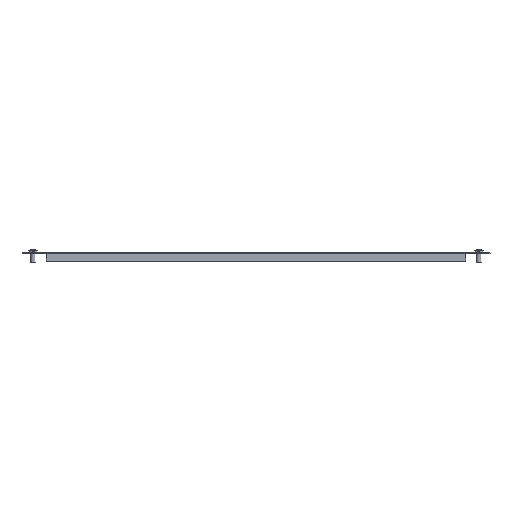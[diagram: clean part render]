
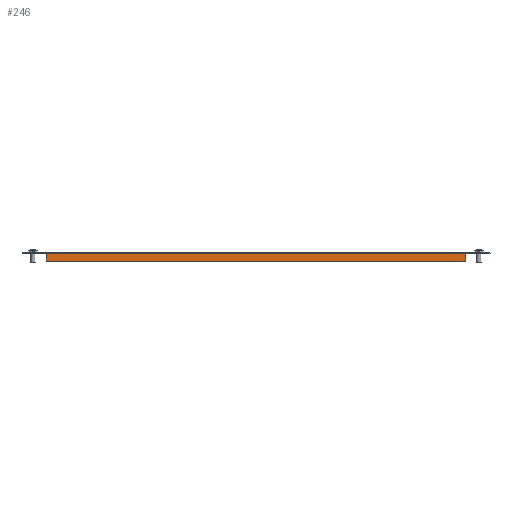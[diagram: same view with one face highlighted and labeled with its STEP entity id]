
A CAD part, front view. The second image highlights one B-rep face of the part: STEP entity #246.
In plain terms, the highlighted planar face has unit normal (0, -1, 0).
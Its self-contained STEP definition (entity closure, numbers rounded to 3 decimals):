
#41 = LINE ( 'NONE', #1255, #450 ) ;
#45 = CARTESIAN_POINT ( 'NONE',  ( -235.5, -635., 0. ) ) ;
#74 = CARTESIAN_POINT ( 'NONE',  ( -235.5, -635., -2.4 ) ) ;
#131 = LINE ( 'NONE', #2145, #982 ) ;
#200 = ORIENTED_EDGE ( 'NONE', *, *, #471, .T. ) ;
#246 = ADVANCED_FACE ( 'NONE', ( #5165 ), #5523, .T. ) ;
#414 = ORIENTED_EDGE ( 'NONE', *, *, #1550, .T. ) ;
#450 = VECTOR ( 'NONE', #2115, 1000. ) ;
#471 = EDGE_CURVE ( 'NONE', #4413, #2555, #41, .T. ) ;
#478 = CARTESIAN_POINT ( 'NONE',  ( 235.5, -635., -10. ) ) ;
#820 = DIRECTION ( 'NONE',  ( 1., 0., 0. ) ) ;
#844 = VERTEX_POINT ( 'NONE', #1645 ) ;
#975 = VECTOR ( 'NONE', #5278, 1000. ) ;
#982 = VECTOR ( 'NONE', #4327, 1000. ) ;
#986 = LINE ( 'NONE', #478, #975 ) ;
#1010 = DIRECTION ( 'NONE',  ( 0., 0., 1. ) ) ;
#1026 = ORIENTED_EDGE ( 'NONE', *, *, #4477, .F. ) ;
#1216 = EDGE_CURVE ( 'NONE', #844, #5057, #986, .T. ) ;
#1255 = CARTESIAN_POINT ( 'NONE',  ( 0., -635., 0. ) ) ;
#1261 = CARTESIAN_POINT ( 'NONE',  ( 235.5, -635., 0. ) ) ;
#1281 = CARTESIAN_POINT ( 'NONE',  ( -235.5, -635., 0. ) ) ;
#1498 = CARTESIAN_POINT ( 'NONE',  ( -235.5, -635., -10. ) ) ;
#1550 = EDGE_CURVE ( 'NONE', #844, #4413, #4830, .T. ) ;
#1645 = CARTESIAN_POINT ( 'NONE',  ( 235.5, -635., -2.4 ) ) ;
#2097 = EDGE_CURVE ( 'NONE', #2248, #2203, #131, .T. ) ;
#2115 = DIRECTION ( 'NONE',  ( -1., 0., 0. ) ) ;
#2145 = CARTESIAN_POINT ( 'NONE',  ( -235.5, -635., -1.8 ) ) ;
#2178 = LINE ( 'NONE', #45, #2526 ) ;
#2203 = VERTEX_POINT ( 'NONE', #74 ) ;
#2248 = VERTEX_POINT ( 'NONE', #1498 ) ;
#2252 = EDGE_LOOP ( 'NONE', ( #2478, #414, #200, #1026, #3176, #4861 ) ) ;
#2318 = VECTOR ( 'NONE', #1010, 1000. ) ;
#2331 = DIRECTION ( 'NONE',  ( 0., 0., 1. ) ) ;
#2337 = VECTOR ( 'NONE', #4381, 1000. ) ;
#2478 = ORIENTED_EDGE ( 'NONE', *, *, #1216, .F. ) ;
#2526 = VECTOR ( 'NONE', #2331, 1000. ) ;
#2555 = VERTEX_POINT ( 'NONE', #1281 ) ;
#3071 = AXIS2_PLACEMENT_3D ( 'NONE', #4263, #5107, #820 ) ;
#3176 = ORIENTED_EDGE ( 'NONE', *, *, #2097, .F. ) ;
#3400 = EDGE_CURVE ( 'NONE', #5057, #2248, #5195, .T. ) ;
#4263 = CARTESIAN_POINT ( 'NONE',  ( 0., -635., 0. ) ) ;
#4293 = CARTESIAN_POINT ( 'NONE',  ( -235.5, -635., -10. ) ) ;
#4327 = DIRECTION ( 'NONE',  ( 0., 0., 1. ) ) ;
#4381 = DIRECTION ( 'NONE',  ( -1., 0., 0. ) ) ;
#4413 = VERTEX_POINT ( 'NONE', #1261 ) ;
#4477 = EDGE_CURVE ( 'NONE', #2203, #2555, #2178, .T. ) ;
#4830 = LINE ( 'NONE', #4917, #2318 ) ;
#4861 = ORIENTED_EDGE ( 'NONE', *, *, #3400, .F. ) ;
#4864 = CARTESIAN_POINT ( 'NONE',  ( 235.5, -635., -10. ) ) ;
#4917 = CARTESIAN_POINT ( 'NONE',  ( 235.5, -635., -2.4 ) ) ;
#5057 = VERTEX_POINT ( 'NONE', #4864 ) ;
#5107 = DIRECTION ( 'NONE',  ( 0., -1., 0. ) ) ;
#5165 = FACE_OUTER_BOUND ( 'NONE', #2252, .T. ) ;
#5195 = LINE ( 'NONE', #4293, #2337 ) ;
#5278 = DIRECTION ( 'NONE',  ( 0., 0., -1. ) ) ;
#5523 = PLANE ( 'NONE',  #3071 ) ;
